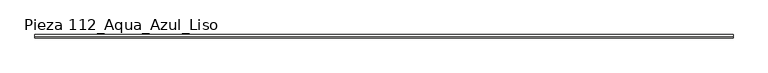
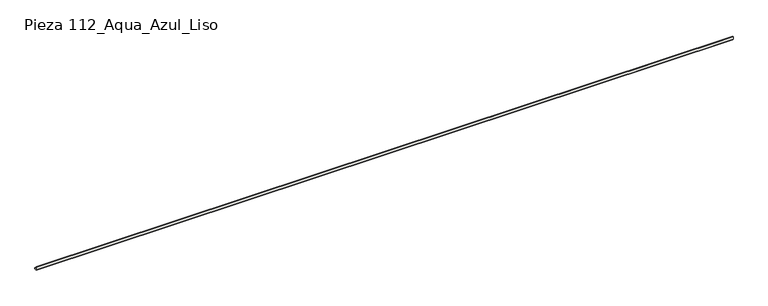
"""IFC4 building model written with IfcOpenShell, lengths in millimetres: slab geometry, ROSA GRES_112 : Pieza 112_Aqua_Azul_Liso."""

from ifc_helpers import new_model, si_unit, point, frame, frame_2d, origin, place, context, project, spatial, polyline, circle_curve, trimmed, segment, composite_curve, outline, extrude, source, transform, mapped, element, save


def pieza_112_aqua_azul_liso_f3ba676e(model_context):
    return source(origin(), model_context, "Body", "SweptSolid", [
        extrude(outline(composite_curve([segment(polyline([(0.0, 8.7114978), (0.0, 40.0), (9.9734114, 40.0)]), True, "CONTINUOUS"), segment(trimmed(circle_curve(frame_2d((39.9955547, 39.9955547)), 30.0221435), [point((9.9734114, 40.0))], [point((40.0, 9.9734114))], True, "CARTESIAN"), True, "CONTINUOUS"), segment(polyline([(40.0, 9.9734114), (40.0, 0.0), (8.7114978, 0.0), (0.0, 8.7114978)]), True, "CONTINUOUS")], self_intersect=False)), frame((0.0, 0.0, 0.0), z_axis=(1.0, 0.0, 0.0), x_axis=(0.0, 1.0, 0.0)), (0.0, 0.0, 1.0), 8250.0),
    ])


if __name__ == "__main__":
    model = new_model("IFC4")
    model_context = context("Model", 3, world=origin())
    ifc_project = project(units=[si_unit("LENGTHUNIT", "METRE", prefix="MILLI")], contexts=[model_context])
    site = spatial("IfcSite", under=ifc_project)
    building = spatial("IfcBuilding", under=site)
    placement = place(None, origin())
    pieza_112_aqua_azul_liso_shape = pieza_112_aqua_azul_liso_f3ba676e(model_context)
    element("IfcSlab", 1, ObjectType="ROSA GRES_112 : Pieza 112_Aqua_Azul_Liso", at=placement, inside=building, context=model_context, shape_type="MappedRepresentation", body=[
        mapped(pieza_112_aqua_azul_liso_shape, transform((0.0, 0.0, 0.0), x_axis=(1.0, 0.0, 0.0), y_axis=(0.0, 1.0, 0.0), z_axis=(0.0, 0.0, 1.0))),
    ])
    save(model, "model.ifc")
